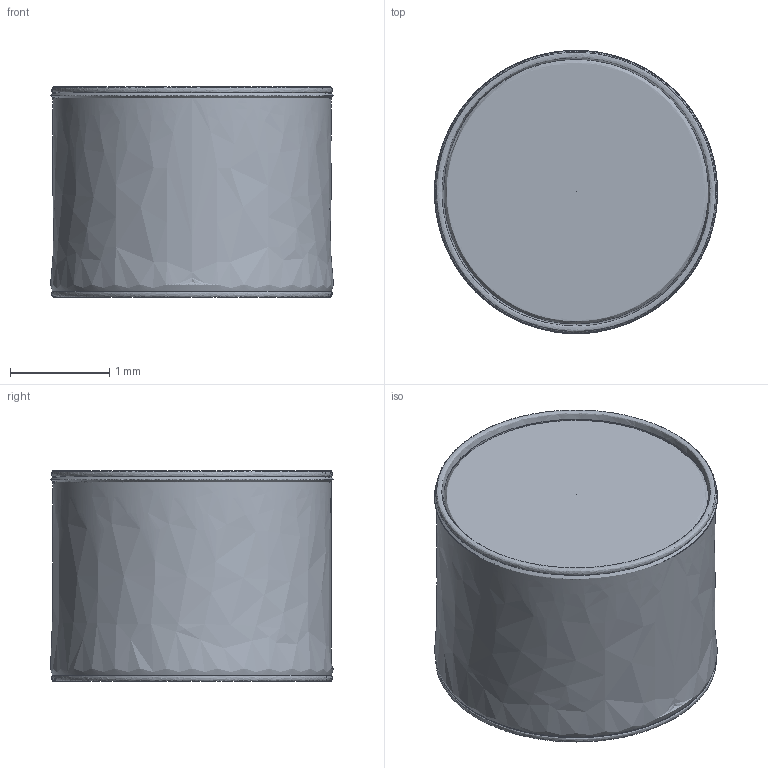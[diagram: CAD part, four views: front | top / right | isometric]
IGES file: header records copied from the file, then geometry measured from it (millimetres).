
Global section: file name: /home/lore/2005/xcmodel_3.2/surfaces/GranCassa.igs; native system: XCMODEL ver.3.0 Universita' di Bologna; preprocessor: formato IGES Nov. 2001; date: 060219.231431; units: millimetre
Bounding box: 2.85 x 2.85 x 2.12 mm (x, y, z)
Surface area: 36 mm2 (no closed solid volume)
Topology: 0 solids, 0 shells, 5 faces, 15 edges, 10 vertices
Faces by surface type: bspline 5
